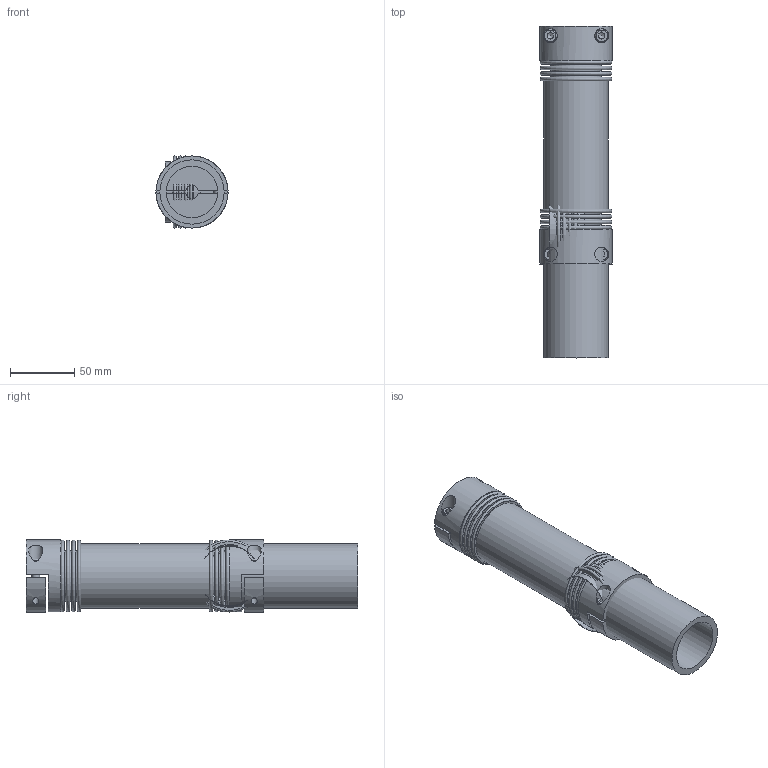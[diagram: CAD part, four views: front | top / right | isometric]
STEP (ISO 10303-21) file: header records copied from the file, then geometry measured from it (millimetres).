
FILE_DESCRIPTION( ( 'Unknown' ), '1' );
FILE_NAME( 'K:/Konstruktion/DRB/DRB30.stp', 'Unknown', ( 'Unknown' ), ( 'Unknown' ), 'XStep 1.0', 'Unknown', ' ' );
FILE_SCHEMA( ( 'automotive_design' ) );
Length unit declared in the file: millimetre
Products named in the file (6): Assem1; KN4H-30; BK30_Standard_0; Socket Head Cap Screw_DIN_DIN 912 M6 x 20 --- 20N_1; R50
Bounding box: 56 x 257.9 x 56 mm (x, y, z)
Volume: 332136.1 mm3; surface area: 181428.4 mm2
Topology: 16 solids, 16 shells, 290 faces, 576 edges, 374 vertices
Faces by surface type: plane 166, torus 58, cylinder 56, cone 10
Full cylindrical faces by diameter (mm): 4.917 x6, 6 x5, 6.4 x6, 10 x8, 11 x6, 40 x2, 46.5 x6, 47.3 x6, 50 x2, 56 x3
Entity records: 2629 total; most frequent: CARTESIAN_POINT 583, DIRECTION 378, ORIENTED_EDGE 234, AXIS2_PLACEMENT_3D 169, EDGE_LOOP 152, FACE_OUTER_BOUND 118, EDGE_CURVE 117, VERTEX_POINT 98
